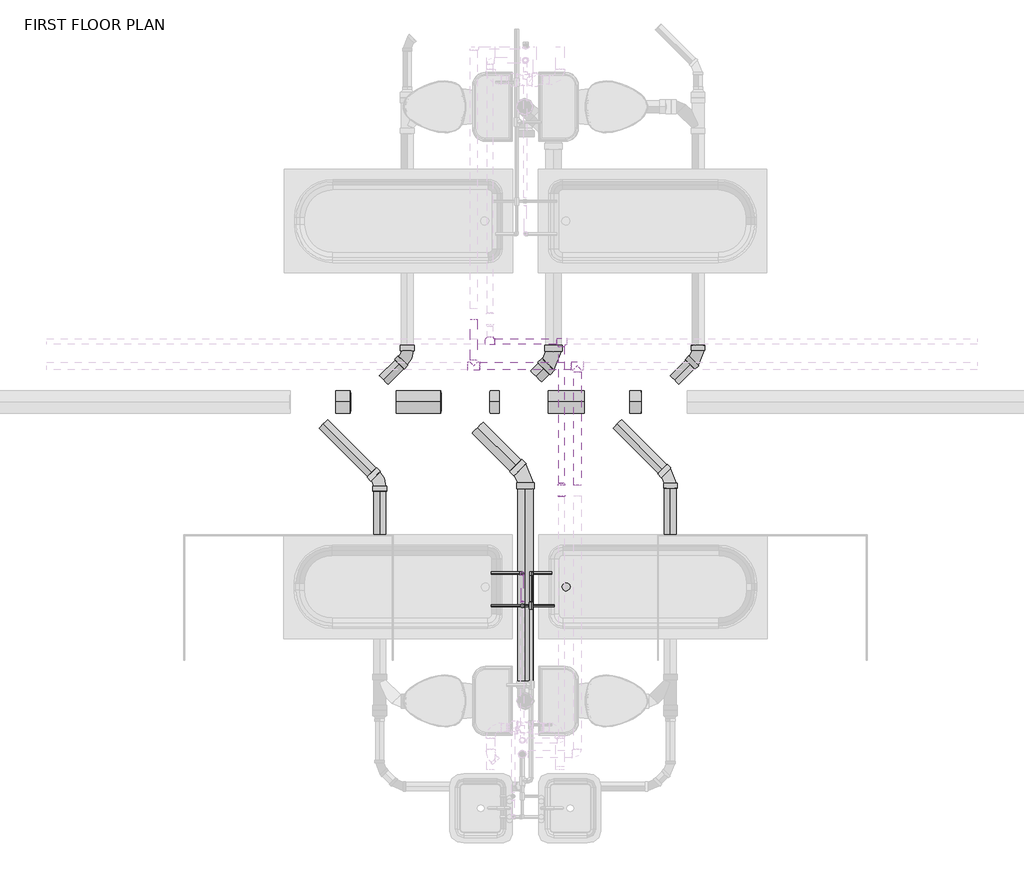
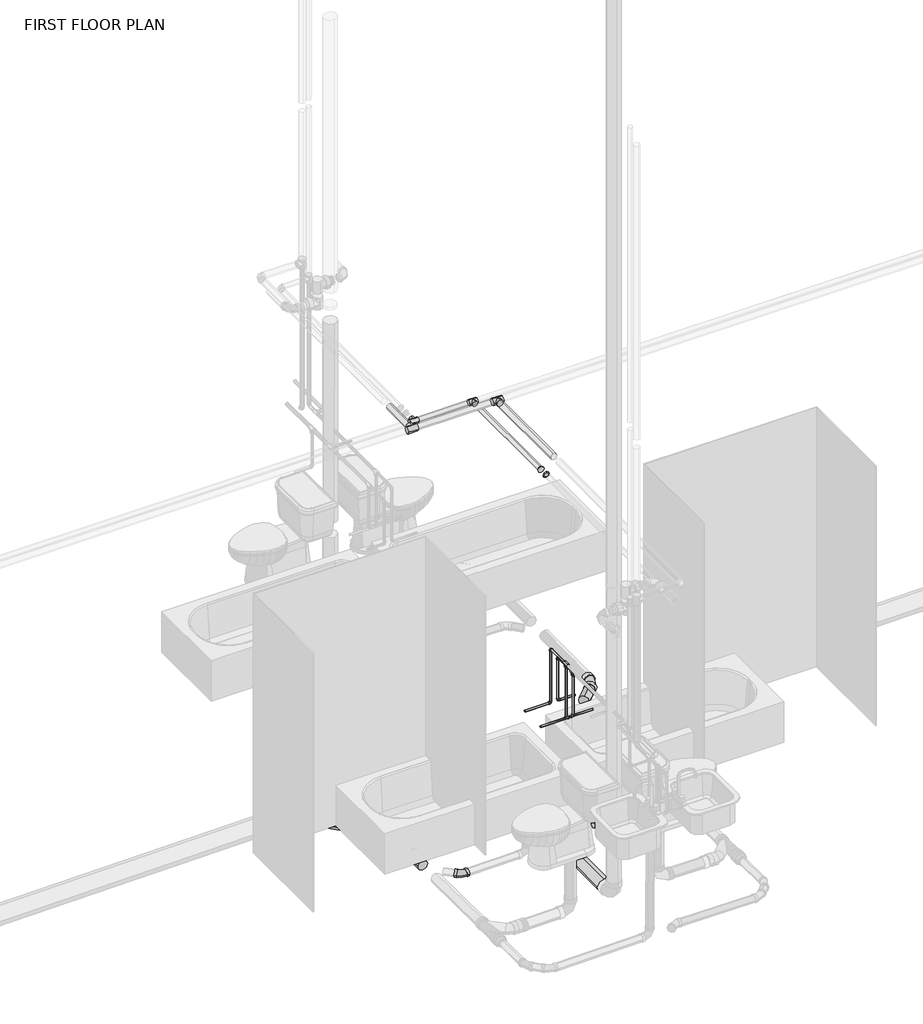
# One storey, part 7 of 29: 32 pipe segments, 27 pipe fittings.
"""IFC4 building model written with IfcOpenShell, lengths in millimetres."""

from ifc_helpers import new_model, si_unit, point, frame, frame_2d, origin, place, context, project, spatial, circle_curve, trimmed, segment, composite_curve, outline, extrude, transform, mapped, element, save
from components import bend_pvc_sch_40_dwv_standard_22595671, bend_pvc_sch_40_dwv_standard_3c7622ae, bend_pvc_sch_40_dwv_standard_52eb40f7, bend_pvc_sch_40_dwv_standard_32dc575b, bend_pvc_sch_40_dwv_standard_8f92de95, bend_pvc_sch_40_dwv_standard_edab7eab, bend_pvc_sch_40_dwv_standard_c6b3a881, bend_pvc_sch_40_dwv_standard_24e66de7, bend_pvc_sch_40_dwv_standard_e1d401b7, pipe_elbow_copper_k_aad62f2d, pipe_tee_copper_k_36278b8a, pipe_tee_copper_k_7127fd44, pipe_tee_copper_k_ee363fbf, pipe_transition_copper_k_c7248b3c, pipe_transition_copper_k_3b8d3413, pipe_transition_copper_k_859ff352

model = new_model("IFC4")

# Units and contexts
model_context = context("Model", 3, world=origin())
ifc_project = project(units=[si_unit("LENGTHUNIT", "METRE", prefix="MILLI")], contexts=[model_context])

# Site, building, storey
site = spatial("IfcSite", under=ifc_project)
building = spatial("IfcBuilding", under=site)
storey = spatial("IfcBuildingStorey", under=building, Name="FIRST FLOOR PLAN", Elevation=0.0)

# Pipe fittings
placement = place(None, origin())
bend_pvc_sch_40_dwv_standard_shape = bend_pvc_sch_40_dwv_standard_22595671(model_context)
element("IfcPipeFitting", 1, ObjectType="Bend - PVC - Sch 40 - DWV : Standard", at=placement, inside=storey, context=model_context, shape_type="MappedRepresentation", body=[
    mapped(bend_pvc_sch_40_dwv_standard_shape, transform((1246.5633345, 4156.8314746, -542.0714298), x_axis=(0.7066279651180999, -0.7075155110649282, 0.009935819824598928), y_axis=(0.7075086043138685, 0.7066884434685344, 0.004797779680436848), z_axis=(-0.010416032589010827, 0.003639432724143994, 0.9999391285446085))),
])
bend_pvc_sch_40_dwv_standard_2_shape = bend_pvc_sch_40_dwv_standard_3c7622ae(model_context)
element("IfcPipeFitting", 2, ObjectType="Bend - PVC - Sch 40 - DWV : Standard", at=placement, inside=storey, context=model_context, shape_type="MappedRepresentation", body=[
    mapped(bend_pvc_sch_40_dwv_standard_2_shape, transform((2415.9584252, 4157.2367423, -508.9174872), x_axis=(0.0, 0.0, -1.0), y_axis=(-1.0, 0.0, 0.0), z_axis=(0.0, 1.0, 0.0))),
])
bend_pvc_sch_40_dwv_standard_3_shape = bend_pvc_sch_40_dwv_standard_52eb40f7(model_context)
element("IfcPipeFitting", 3, ObjectType="Bend - PVC - Sch 40 - DWV : Standard", at=placement, inside=storey, context=model_context, shape_type="MappedRepresentation", body=[
    mapped(bend_pvc_sch_40_dwv_standard_3_shape, transform((2984.7292592, 4157.2367423, -514.8421833), x_axis=(-0.7066279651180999, -0.7075155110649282, 0.009935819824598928), y_axis=(0.7075086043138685, -0.7066884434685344, -0.004797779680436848), z_axis=(0.010416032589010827, 0.003639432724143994, 0.9999391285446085))),
])
bend_pvc_sch_40_dwv_standard_4_shape = bend_pvc_sch_40_dwv_standard_32dc575b(model_context)
element("IfcPipeFitting", 4, ObjectType="Bend - PVC - Sch 40 - DWV : Standard", at=placement, inside=storey, context=model_context, shape_type="MappedRepresentation", body=[
    mapped(bend_pvc_sch_40_dwv_standard_4_shape, transform((3182.3208991, 4963.1015963, -523.8971858), x_axis=(0.0, 0.9999526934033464, -0.009726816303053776), y_axis=(-0.9999990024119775, -1.373919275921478e-05, -0.0014124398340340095), z_axis=(-0.0014125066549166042, 0.009726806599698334, 0.9999516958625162))),
])
bend_pvc_sch_40_dwv_standard_5_shape = bend_pvc_sch_40_dwv_standard_8f92de95(model_context)
element("IfcPipeFitting", 5, ObjectType="Bend - PVC - Sch 40 - DWV : Standard", at=placement, inside=storey, context=model_context, shape_type="MappedRepresentation", body=[
    mapped(bend_pvc_sch_40_dwv_standard_5_shape, transform((1048.8502354, 4939.3176455, -550.9402518), x_axis=(0.0, 0.9999457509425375, -0.01041610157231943), y_axis=(-0.9999648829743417, 8.729216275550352e-05, 0.008380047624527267), z_axis=(0.008380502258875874, 0.010415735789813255, 0.9999106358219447))),
])
bend_pvc_sch_40_dwv_standard_6_shape = bend_pvc_sch_40_dwv_standard_edab7eab(model_context)
element("IfcPipeFitting", 6, ObjectType="Bend - PVC - Sch 40 - DWV : Standard", at=placement, inside=storey, context=model_context, shape_type="MappedRepresentation", body=[
    mapped(bend_pvc_sch_40_dwv_standard_6_shape, transform((2117.9058734, 4977.065205, -535.2792916), x_axis=(0.0, 1.0, 0.0), y_axis=(-0.999945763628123, 0.0, -0.010414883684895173), z_axis=(-0.010414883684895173, 0.0, 0.999945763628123))),
])
bend_pvc_sch_40_dwv_standard_7_shape = bend_pvc_sch_40_dwv_standard_c6b3a881(model_context)
element("IfcPipeFitting", 7, ObjectType="Bend - PVC - Sch 40 - DWV : Standard", at=placement, inside=storey, context=model_context, shape_type="MappedRepresentation", body=[
    mapped(bend_pvc_sch_40_dwv_standard_7_shape, transform((3385.2549441, 5847.9477162, -520.7438125), x_axis=(0.7070684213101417, 0.7070684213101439, 0.01041610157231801), y_axis=(-0.7070949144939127, 0.7071170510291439, -0.0015026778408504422), z_axis=(-0.0084278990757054, -0.00630267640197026, 0.9999446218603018))),
])
bend_pvc_sch_40_dwv_standard_8_shape = bend_pvc_sch_40_dwv_standard_24e66de7(model_context)
element("IfcPipeFitting", 8, ObjectType="Bend - PVC - Sch 40 - DWV : Standard", at=placement, inside=storey, context=model_context, shape_type="MappedRepresentation", body=[
    mapped(bend_pvc_sch_40_dwv_standard_8_shape, transform((1250.8963953, 5847.7796385, -542.6111198), x_axis=(0.7070684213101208, 0.7070684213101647, 0.010416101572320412), y_axis=(-0.7057329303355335, 0.7065102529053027, -0.052766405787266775), z_axis=(-0.04466854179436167, 0.029958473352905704, 0.9985525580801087))),
])
bend_pvc_sch_40_dwv_standard_9_shape = bend_pvc_sch_40_dwv_standard_e1d401b7(model_context)
element("IfcPipeFitting", 9, ObjectType="Bend - PVC - Sch 40 - DWV : Standard", at=placement, inside=storey, context=model_context, shape_type="MappedRepresentation", body=[
    mapped(bend_pvc_sch_40_dwv_standard_9_shape, transform((2324.8590713, 5829.7961579, -530.7454986), x_axis=(0.7070156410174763, 0.7070156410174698, 0.016055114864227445), y_axis=(-0.7071556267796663, 0.7070394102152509, 0.0051178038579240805), z_axis=(-0.007733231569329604, -0.014971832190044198, 0.99985801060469))),
])
pipe_elbow_copper_k_shape = pipe_elbow_copper_k_aad62f2d(model_context)
element("IfcPipeFitting", 10, ObjectType="Pipe Elbow : Copper- K", at=placement, inside=storey, context=model_context, shape_type="MappedRepresentation", body=[
    mapped(pipe_elbow_copper_k_shape, transform((2096.0834875, 4258.2262881, 1219.2), x_axis=(0.0, 1.0, 0.0), y_axis=(0.0, 0.0, -1.0), z_axis=(-1.0, 0.0, 0.0))),
])
element("IfcPipeFitting", 11, ObjectType="Pipe Elbow : Copper- K", at=placement, inside=storey, context=model_context, shape_type="MappedRepresentation", body=[
    mapped(pipe_elbow_copper_k_shape, transform((2096.0834875, 4258.2262881, 711.2), x_axis=(0.0, 0.0, -1.0), y_axis=(-1.0, 0.0, 0.0), z_axis=(0.0, 1.0, 0.0))),
])
element("IfcPipeFitting", 12, ObjectType="Pipe Elbow : Copper- K", at=placement, inside=storey, context=model_context, shape_type="MappedRepresentation", body=[
    mapped(pipe_elbow_copper_k_shape, transform((2096.0834875, 4018.2053571, 711.2), x_axis=(0.0, 0.0, -1.0), y_axis=(1.0, 0.0, 0.0), z_axis=(0.0, -1.0, 0.0))),
])
element("IfcPipeFitting", 13, ObjectType="Pipe Elbow : Copper- K", at=placement, inside=storey, context=model_context, shape_type="MappedRepresentation", body=[
    mapped(pipe_elbow_copper_k_shape, transform((2159.5834875, 4258.2262881, 1117.6), x_axis=(0.0, 1.0, 0.0), y_axis=(0.0, 0.0, -1.0), z_axis=(-1.0, 0.0, 0.0))),
])
element("IfcPipeFitting", 14, ObjectType="Pipe Elbow : Copper- K", at=placement, inside=storey, context=model_context, shape_type="MappedRepresentation", body=[
    mapped(pipe_elbow_copper_k_shape, transform((2159.5834875, 4258.2262881, 711.2), x_axis=(0.0, 0.0, -1.0), y_axis=(1.0, 0.0, 0.0), z_axis=(0.0, -1.0, 0.0))),
])
element("IfcPipeFitting", 15, ObjectType="Pipe Elbow : Copper- K", at=placement, inside=storey, context=model_context, shape_type="MappedRepresentation", body=[
    mapped(pipe_elbow_copper_k_shape, transform((2159.5834875, 4018.2053571, 711.2), x_axis=(0.0, 0.0, -1.0), y_axis=(-1.0, 0.0, 0.0), z_axis=(0.0, 1.0, 0.0))),
])
pipe_tee_copper_k_shape = pipe_tee_copper_k_36278b8a(model_context)
element("IfcPipeFitting", 16, ObjectType="Pipe Tee : Copper- K", at=placement, inside=storey, context=model_context, shape_type="MappedRepresentation", body=[
    mapped(pipe_tee_copper_k_shape, transform((1739.2624243, 5778.2175381, 2490.6882812), x_axis=(1.0, 0.0, 0.0), y_axis=(0.0, -1.0, 0.0), z_axis=(0.0, 0.0, -1.0))),
])
element("IfcPipeFitting", 17, ObjectType="Pipe Tee : Copper- K", at=placement, inside=storey, context=model_context, shape_type="MappedRepresentation", body=[
    mapped(pipe_tee_copper_k_shape, transform((2499.3084875, 5778.2175381, 2490.6882812), x_axis=(1.0, 0.0, 0.0), y_axis=(0.0, 1.0, 0.0), z_axis=(0.0, 0.0, 1.0))),
])
pipe_tee_copper_k_2_shape = pipe_tee_copper_k_7127fd44(model_context)
element("IfcPipeFitting", 18, ObjectType="Pipe Tee : Copper- K", at=placement, inside=storey, context=model_context, shape_type="MappedRepresentation", body=[
    mapped(pipe_tee_copper_k_2_shape, transform((1858.4146104, 5956.0175381, 2413.0), x_axis=(-1.0, 0.0, 0.0), y_axis=(0.0, -1.0, 0.0), z_axis=(0.0, 0.0, 1.0))),
])
element("IfcPipeFitting", 19, ObjectType="Pipe Tee : Copper- K", at=placement, inside=storey, context=model_context, shape_type="MappedRepresentation", body=[
    mapped(pipe_tee_copper_k_2_shape, transform((2383.8898661, 5956.0175381, 2413.0), x_axis=(-1.0, 0.0, 0.0), y_axis=(0.0, 1.0, 0.0), z_axis=(0.0, 0.0, -1.0))),
])
pipe_tee_copper_k_3_shape = pipe_tee_copper_k_ee363fbf(model_context)
element("IfcPipeFitting", 20, ObjectType="Pipe Tee : Copper- K", at=placement, inside=storey, context=model_context, shape_type="MappedRepresentation", body=[
    mapped(pipe_tee_copper_k_3_shape, transform((2096.0834875, 4018.2053571, 1219.2), x_axis=(0.0, -1.0, 0.0), y_axis=(0.0, 0.0, 1.0), z_axis=(-1.0, 0.0, 0.0))),
])
element("IfcPipeFitting", 21, ObjectType="Pipe Tee : Copper- K", at=placement, inside=storey, context=model_context, shape_type="MappedRepresentation", body=[
    mapped(pipe_tee_copper_k_3_shape, transform((2159.5834875, 4018.2053571, 1117.6), x_axis=(0.0, -1.0, 0.0), y_axis=(0.0, 0.0, 1.0), z_axis=(-1.0, 0.0, 0.0))),
])
pipe_transition_copper_k_shape = pipe_transition_copper_k_c7248b3c(model_context)
element("IfcPipeFitting", 22, ObjectType="Pipe Transition : Copper- K", at=placement, inside=storey, context=model_context, shape_type="MappedRepresentation", body=[
    mapped(pipe_transition_copper_k_shape, transform((2383.8898661, 4819.2049131, 2413.0), x_axis=(0.0, 1.0, 0.0), y_axis=(-1.0, 0.0, 0.0), z_axis=(0.0, 0.0, 1.0))),
])
pipe_transition_copper_k_2_shape = pipe_transition_copper_k_3b8d3413(model_context)
element("IfcPipeFitting", 23, ObjectType="Pipe Transition : Copper- K", at=placement, inside=storey, context=model_context, shape_type="MappedRepresentation", body=[
    mapped(pipe_transition_copper_k_2_shape, transform((2383.8898661, 4903.6757881, 2413.0), x_axis=(0.0, 1.0, 0.0), y_axis=(-0.9999997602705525, 0.0, 0.0006924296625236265), z_axis=(0.0006924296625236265, 0.0, 0.9999997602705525))),
])
pipe_transition_copper_k_3_shape = pipe_transition_copper_k_859ff352(model_context)
element("IfcPipeFitting", 24, ObjectType="Pipe Transition : Copper- K", at=placement, inside=storey, context=model_context, shape_type="MappedRepresentation", body=[
    mapped(pipe_transition_copper_k_3_shape, transform((2096.0834875, 4018.2053571, 1192.2125), x_axis=(0.0, 0.0, -1.0), y_axis=(0.0, 1.0, 0.0), z_axis=(1.0, 0.0, 0.0))),
])
element("IfcPipeFitting", 25, ObjectType="Pipe Transition : Copper- K", at=placement, inside=storey, context=model_context, shape_type="MappedRepresentation", body=[
    mapped(pipe_transition_copper_k_3_shape, transform((2159.5834875, 4018.2053571, 1090.6125), x_axis=(0.0, 0.0, -1.0), y_axis=(0.0, -1.0, 0.0), z_axis=(-1.0, 0.0, 0.0))),
])
element("IfcPipeFitting", 26, ObjectType="Pipe Transition : Copper- K", at=placement, inside=storey, context=model_context, shape_type="MappedRepresentation", body=[
    mapped(pipe_transition_copper_k_3_shape, transform((2096.0834875, 4045.1928571, 1219.2), x_axis=(0.0, 1.0, 0.0), y_axis=(-1.0, 0.0, 0.0), z_axis=(0.0, 0.0, 1.0))),
])
element("IfcPipeFitting", 27, ObjectType="Pipe Transition : Copper- K", at=placement, inside=storey, context=model_context, shape_type="MappedRepresentation", body=[
    mapped(pipe_transition_copper_k_3_shape, transform((2159.5834875, 4045.1928571, 1117.6), x_axis=(0.0, 1.0, 0.0), y_axis=(-1.0, 0.0, 0.0), z_axis=(0.0, 0.0, 1.0))),
])

# Pipe segments
element("IfcPipeSegment", 28, ObjectType="Copper", at=placement, inside=storey, context=model_context, shape_type="SweptSolid", body=[
    extrude(outline(composite_curve([segment(trimmed(circle_curve(frame_2d((2490.6882812, 1739.2624243)), 26.9875), [point((2490.6882812, 1712.2749243))], [point((2463.7007812, 1739.2624243))], False, "CARTESIAN"), True, "CONTINUOUS"), segment(trimmed(circle_curve(frame_2d((2490.6882812, 1739.2624243)), 26.9875), [point((2463.7007812, 1739.2624243))], [point((2490.6882812, 1766.2499243))], False, "CARTESIAN"), True, "CONTINUOUS"), segment(trimmed(circle_curve(frame_2d((2490.6882812, 1739.2624243)), 26.9875), [point((2490.6882812, 1766.2499243))], [point((2517.6757812, 1739.2624243))], False, "CARTESIAN"), True, "CONTINUOUS"), segment(trimmed(circle_curve(frame_2d((2490.6882812, 1739.2624243)), 26.9875), [point((2517.6757812, 1739.2624243))], [point((2490.6882812, 1712.2749243))], False, "CARTESIAN"), True, "CONTINUOUS")], self_intersect=False)), frame((0.0, 5821.0800381, 0.0), z_axis=(0.0, 1.0, 0.0), x_axis=(0.0, 0.0, 1.0)), (0.0, 0.0, 1.0), 300.27175),
])
element("IfcPipeSegment", 29, ObjectType="Copper", at=placement, inside=storey, context=model_context, shape_type="SweptSolid", body=[
    extrude(outline(composite_curve([segment(trimmed(circle_curve(frame_2d((2490.6882812, 2499.3084875)), 26.9875), [point((2490.6882812, 2526.2959875))], [point((2517.6757812, 2499.3084875))], False, "CARTESIAN"), True, "CONTINUOUS"), segment(trimmed(circle_curve(frame_2d((2490.6882812, 2499.3084875)), 26.9875), [point((2517.6757812, 2499.3084875))], [point((2490.6882812, 2472.3209875))], False, "CARTESIAN"), True, "CONTINUOUS"), segment(trimmed(circle_curve(frame_2d((2490.6882812, 2499.3084875)), 26.9875), [point((2490.6882812, 2472.3209875))], [point((2463.7007812, 2499.3084875))], False, "CARTESIAN"), True, "CONTINUOUS"), segment(trimmed(circle_curve(frame_2d((2490.6882812, 2499.3084875)), 26.9875), [point((2463.7007812, 2499.3084875))], [point((2490.6882812, 2526.2959875))], False, "CARTESIAN"), True, "CONTINUOUS")], self_intersect=False)), frame((0.0, 4903.6757881, 0.0), z_axis=(0.0, 1.0, 0.0), x_axis=(0.0, 0.0, 1.0)), (0.0, 0.0, 1.0), 831.67925),
])
element("IfcPipeSegment", 30, ObjectType="Copper", at=placement, inside=storey, context=model_context, shape_type="SweptSolid", body=[
    extrude(outline(composite_curve([segment(trimmed(circle_curve(frame_2d((2413.0, 2383.8898661)), 20.6375), [point((2413.0, 2404.5273661))], [point((2433.6375, 2383.8898661))], False, "CARTESIAN"), True, "CONTINUOUS"), segment(trimmed(circle_curve(frame_2d((2413.0, 2383.8898661)), 20.6375), [point((2433.6375, 2383.8898661))], [point((2413.0, 2363.2523661))], False, "CARTESIAN"), True, "CONTINUOUS"), segment(trimmed(circle_curve(frame_2d((2413.0, 2383.8898661)), 20.6375), [point((2413.0, 2363.2523661))], [point((2392.3625, 2383.8898661))], False, "CARTESIAN"), True, "CONTINUOUS"), segment(trimmed(circle_curve(frame_2d((2413.0, 2383.8898661)), 20.6375), [point((2392.3625, 2383.8898661))], [point((2413.0, 2404.5273661))], False, "CARTESIAN"), True, "CONTINUOUS")], self_intersect=False)), frame((0.0, 4917.1695381, 0.0), z_axis=(0.0, 1.0, 0.0), x_axis=(0.0, 0.0, 1.0)), (0.0, 0.0, 1.0), 1002.3355),
])
element("IfcPipeSegment", 31, ObjectType="Copper", at=placement, inside=storey, context=model_context, shape_type="SweptSolid", body=[
    extrude(outline(composite_curve([segment(trimmed(circle_curve(frame_2d((5778.2175381, 2490.6882812)), 26.9875), [point((5805.2050381, 2490.6882812))], [point((5778.2175381, 2463.7007812))], False, "CARTESIAN"), True, "CONTINUOUS"), segment(trimmed(circle_curve(frame_2d((5778.2175381, 2490.6882812)), 26.9875), [point((5778.2175381, 2463.7007812))], [point((5751.2300381, 2490.6882812))], False, "CARTESIAN"), True, "CONTINUOUS"), segment(trimmed(circle_curve(frame_2d((5778.2175381, 2490.6882812)), 26.9875), [point((5751.2300381, 2490.6882812))], [point((5778.2175381, 2517.6757812))], False, "CARTESIAN"), True, "CONTINUOUS"), segment(trimmed(circle_curve(frame_2d((5778.2175381, 2490.6882812)), 26.9875), [point((5778.2175381, 2517.6757812))], [point((5805.2050381, 2490.6882812))], False, "CARTESIAN"), True, "CONTINUOUS")], self_intersect=False)), frame((1782.1249243, 0.0, 0.0), z_axis=(1.0, 0.0, 0.0), x_axis=(0.0, 1.0, 0.0)), (0.0, 0.0, 1.0), 674.3210632),
])
element("IfcPipeSegment", 32, ObjectType="Copper", at=placement, inside=storey, context=model_context, shape_type="SweptSolid", body=[
    extrude(outline(composite_curve([segment(trimmed(circle_curve(frame_2d((5956.0175381, 2413.0)), 20.6375), [point((5935.3800381, 2413.0))], [point((5956.0175381, 2433.6375))], False, "CARTESIAN"), True, "CONTINUOUS"), segment(trimmed(circle_curve(frame_2d((5956.0175381, 2413.0)), 20.6375), [point((5956.0175381, 2433.6375))], [point((5976.6550381, 2413.0))], False, "CARTESIAN"), True, "CONTINUOUS"), segment(trimmed(circle_curve(frame_2d((5956.0175381, 2413.0)), 20.6375), [point((5976.6550381, 2413.0))], [point((5956.0175381, 2392.3625))], False, "CARTESIAN"), True, "CONTINUOUS"), segment(trimmed(circle_curve(frame_2d((5956.0175381, 2413.0)), 20.6375), [point((5956.0175381, 2392.3625))], [point((5935.3800381, 2413.0))], False, "CARTESIAN"), True, "CONTINUOUS")], self_intersect=False)), frame((1894.9271104, 0.0, 0.0), z_axis=(1.0, 0.0, 0.0), x_axis=(0.0, 1.0, 0.0)), (0.0, 0.0, 1.0), 452.4502557),
])
element("IfcPipeSegment", 33, ObjectType="Copper", at=placement, inside=storey, context=model_context, shape_type="SweptSolid", body=[
    extrude(outline(composite_curve([segment(trimmed(circle_curve(frame_2d((1219.2, 2096.0834875)), 7.9375), [point((1219.2, 2104.0209875))], [point((1227.1375, 2096.0834875))], False, "CARTESIAN"), True, "CONTINUOUS"), segment(trimmed(circle_curve(frame_2d((1219.2, 2096.0834875)), 7.9375), [point((1227.1375, 2096.0834875))], [point((1219.2, 2088.1459875))], False, "CARTESIAN"), True, "CONTINUOUS"), segment(trimmed(circle_curve(frame_2d((1219.2, 2096.0834875)), 7.9375), [point((1219.2, 2088.1459875))], [point((1211.2625, 2096.0834875))], False, "CARTESIAN"), True, "CONTINUOUS"), segment(trimmed(circle_curve(frame_2d((1219.2, 2096.0834875)), 7.9375), [point((1211.2625, 2096.0834875))], [point((1219.2, 2104.0209875))], False, "CARTESIAN"), True, "CONTINUOUS")], self_intersect=False)), frame((0.0, 4050.7491071, 0.0), z_axis=(0.0, 1.0, 0.0), x_axis=(0.0, 0.0, 1.0)), (0.0, 0.0, 1.0), 190.0146809),
])
element("IfcPipeSegment", 34, ObjectType="Copper", at=placement, inside=storey, context=model_context, shape_type="SweptSolid", body=[
    extrude(outline(composite_curve([segment(trimmed(circle_curve(frame_2d((4258.2262881, 711.2)), 7.9375), [point((4266.1637881, 711.2))], [point((4258.2262881, 703.2625))], False, "CARTESIAN"), True, "CONTINUOUS"), segment(trimmed(circle_curve(frame_2d((4258.2262881, 711.2)), 7.9375), [point((4258.2262881, 703.2625))], [point((4250.2887881, 711.2))], False, "CARTESIAN"), True, "CONTINUOUS"), segment(trimmed(circle_curve(frame_2d((4258.2262881, 711.2)), 7.9375), [point((4250.2887881, 711.2))], [point((4258.2262881, 719.1375))], False, "CARTESIAN"), True, "CONTINUOUS"), segment(trimmed(circle_curve(frame_2d((4258.2262881, 711.2)), 7.9375), [point((4258.2262881, 719.1375))], [point((4266.1637881, 711.2))], False, "CARTESIAN"), True, "CONTINUOUS")], self_intersect=False)), frame((1867.4834875, 0.0, 0.0), z_axis=(1.0, 0.0, 0.0), x_axis=(0.0, 1.0, 0.0)), (0.0, 0.0, 1.0), 211.1375),
])
element("IfcPipeSegment", 35, ObjectType="Copper", at=placement, inside=storey, context=model_context, shape_type="SweptSolid", body=[
    extrude(outline(composite_curve([segment(trimmed(circle_curve(frame_2d((2096.0834875, 4258.2262881)), 7.9375), [point((2104.0209875, 4258.2262881))], [point((2096.0834875, 4250.2887881))], False, "CARTESIAN"), True, "CONTINUOUS"), segment(trimmed(circle_curve(frame_2d((2096.0834875, 4258.2262881)), 7.9375), [point((2096.0834875, 4250.2887881))], [point((2088.1459875, 4258.2262881))], False, "CARTESIAN"), True, "CONTINUOUS"), segment(trimmed(circle_curve(frame_2d((2096.0834875, 4258.2262881)), 7.9375), [point((2088.1459875, 4258.2262881))], [point((2096.0834875, 4266.1637881))], False, "CARTESIAN"), True, "CONTINUOUS"), segment(trimmed(circle_curve(frame_2d((2096.0834875, 4258.2262881)), 7.9375), [point((2096.0834875, 4266.1637881))], [point((2104.0209875, 4258.2262881))], False, "CARTESIAN"), True, "CONTINUOUS")], self_intersect=False)), frame((0.0, 0.0, 728.6625), z_axis=(0.0, 0.0, 1.0), x_axis=(1.0, 0.0, 0.0)), (0.0, 0.0, 1.0), 473.075),
])
element("IfcPipeSegment", 36, ObjectType="Copper", at=placement, inside=storey, context=model_context, shape_type="SweptSolid", body=[
    extrude(outline(composite_curve([segment(trimmed(circle_curve(frame_2d((4018.2053571, 711.2)), 7.9375), [point((4010.2678571, 711.2))], [point((4018.2053571, 719.1375))], False, "CARTESIAN"), True, "CONTINUOUS"), segment(trimmed(circle_curve(frame_2d((4018.2053571, 711.2)), 7.9375), [point((4018.2053571, 719.1375))], [point((4026.1428571, 711.2))], False, "CARTESIAN"), True, "CONTINUOUS"), segment(trimmed(circle_curve(frame_2d((4018.2053571, 711.2)), 7.9375), [point((4026.1428571, 711.2))], [point((4018.2053571, 703.2625))], False, "CARTESIAN"), True, "CONTINUOUS"), segment(trimmed(circle_curve(frame_2d((4018.2053571, 711.2)), 7.9375), [point((4018.2053571, 703.2625))], [point((4010.2678571, 711.2))], False, "CARTESIAN"), True, "CONTINUOUS")], self_intersect=False)), frame((2113.5459875, 0.0, 0.0), z_axis=(1.0, 0.0, 0.0), x_axis=(0.0, 1.0, 0.0)), (0.0, 0.0, 1.0), 217.4875),
])
element("IfcPipeSegment", 37, ObjectType="Copper", at=placement, inside=storey, context=model_context, shape_type="SweptSolid", body=[
    extrude(outline(composite_curve([segment(trimmed(circle_curve(frame_2d((2096.0834875, 4018.2053571)), 7.9375), [point((2104.0209875, 4018.2053571))], [point((2096.0834875, 4010.2678571))], False, "CARTESIAN"), True, "CONTINUOUS"), segment(trimmed(circle_curve(frame_2d((2096.0834875, 4018.2053571)), 7.9375), [point((2096.0834875, 4010.2678571))], [point((2088.1459875, 4018.2053571))], False, "CARTESIAN"), True, "CONTINUOUS"), segment(trimmed(circle_curve(frame_2d((2096.0834875, 4018.2053571)), 7.9375), [point((2088.1459875, 4018.2053571))], [point((2096.0834875, 4026.1428571))], False, "CARTESIAN"), True, "CONTINUOUS"), segment(trimmed(circle_curve(frame_2d((2096.0834875, 4018.2053571)), 7.9375), [point((2096.0834875, 4026.1428571))], [point((2104.0209875, 4018.2053571))], False, "CARTESIAN"), True, "CONTINUOUS")], self_intersect=False)), frame((0.0, 0.0, 728.6625), z_axis=(0.0, 0.0, 1.0), x_axis=(1.0, 0.0, 0.0)), (0.0, 0.0, 1.0), 457.99375),
])
element("IfcPipeSegment", 38, ObjectType="Copper", at=placement, inside=storey, context=model_context, shape_type="SweptSolid", body=[
    extrude(outline(composite_curve([segment(trimmed(circle_curve(frame_2d((1117.6, 2159.5834875)), 7.9375), [point((1117.6, 2167.5209875))], [point((1125.5375, 2159.5834875))], False, "CARTESIAN"), True, "CONTINUOUS"), segment(trimmed(circle_curve(frame_2d((1117.6, 2159.5834875)), 7.9375), [point((1125.5375, 2159.5834875))], [point((1117.6, 2151.6459875))], False, "CARTESIAN"), True, "CONTINUOUS"), segment(trimmed(circle_curve(frame_2d((1117.6, 2159.5834875)), 7.9375), [point((1117.6, 2151.6459875))], [point((1109.6625, 2159.5834875))], False, "CARTESIAN"), True, "CONTINUOUS"), segment(trimmed(circle_curve(frame_2d((1117.6, 2159.5834875)), 7.9375), [point((1109.6625, 2159.5834875))], [point((1117.6, 2167.5209875))], False, "CARTESIAN"), True, "CONTINUOUS")], self_intersect=False)), frame((0.0, 4050.7491071, 0.0), z_axis=(0.0, 1.0, 0.0), x_axis=(0.0, 0.0, 1.0)), (0.0, 0.0, 1.0), 190.0146809),
])
element("IfcPipeSegment", 39, ObjectType="Copper", at=placement, inside=storey, context=model_context, shape_type="SweptSolid", body=[
    extrude(outline(composite_curve([segment(trimmed(circle_curve(frame_2d((4258.2262881, 711.2)), 7.9375), [point((4250.2887881, 711.2))], [point((4258.2262881, 719.1375))], False, "CARTESIAN"), True, "CONTINUOUS"), segment(trimmed(circle_curve(frame_2d((4258.2262881, 711.2)), 7.9375), [point((4258.2262881, 719.1375))], [point((4266.1637881, 711.2))], False, "CARTESIAN"), True, "CONTINUOUS"), segment(trimmed(circle_curve(frame_2d((4258.2262881, 711.2)), 7.9375), [point((4266.1637881, 711.2))], [point((4258.2262881, 703.2625))], False, "CARTESIAN"), True, "CONTINUOUS"), segment(trimmed(circle_curve(frame_2d((4258.2262881, 711.2)), 7.9375), [point((4258.2262881, 703.2625))], [point((4250.2887881, 711.2))], False, "CARTESIAN"), True, "CONTINUOUS")], self_intersect=False)), frame((2177.0459875, 0.0, 0.0), z_axis=(1.0, 0.0, 0.0), x_axis=(0.0, 1.0, 0.0)), (0.0, 0.0, 1.0), 134.9375),
])
element("IfcPipeSegment", 40, ObjectType="Copper", at=placement, inside=storey, context=model_context, shape_type="SweptSolid", body=[
    extrude(outline(composite_curve([segment(trimmed(circle_curve(frame_2d((2159.5834875, 4258.2262881)), 7.9375), [point((2167.5209875, 4258.2262881))], [point((2159.5834875, 4250.2887881))], False, "CARTESIAN"), True, "CONTINUOUS"), segment(trimmed(circle_curve(frame_2d((2159.5834875, 4258.2262881)), 7.9375), [point((2159.5834875, 4250.2887881))], [point((2151.6459875, 4258.2262881))], False, "CARTESIAN"), True, "CONTINUOUS"), segment(trimmed(circle_curve(frame_2d((2159.5834875, 4258.2262881)), 7.9375), [point((2151.6459875, 4258.2262881))], [point((2159.5834875, 4266.1637881))], False, "CARTESIAN"), True, "CONTINUOUS"), segment(trimmed(circle_curve(frame_2d((2159.5834875, 4258.2262881)), 7.9375), [point((2159.5834875, 4266.1637881))], [point((2167.5209875, 4258.2262881))], False, "CARTESIAN"), True, "CONTINUOUS")], self_intersect=False)), frame((0.0, 0.0, 728.6625), z_axis=(0.0, 0.0, 1.0), x_axis=(1.0, 0.0, 0.0)), (0.0, 0.0, 1.0), 371.475),
])
element("IfcPipeSegment", 41, ObjectType="Copper", at=placement, inside=storey, context=model_context, shape_type="SweptSolid", body=[
    extrude(outline(composite_curve([segment(trimmed(circle_curve(frame_2d((4018.2053571, 711.2)), 7.9375), [point((4026.1428571, 711.2))], [point((4018.2053571, 703.2625))], False, "CARTESIAN"), True, "CONTINUOUS"), segment(trimmed(circle_curve(frame_2d((4018.2053571, 711.2)), 7.9375), [point((4018.2053571, 703.2625))], [point((4010.2678571, 711.2))], False, "CARTESIAN"), True, "CONTINUOUS"), segment(trimmed(circle_curve(frame_2d((4018.2053571, 711.2)), 7.9375), [point((4010.2678571, 711.2))], [point((4018.2053571, 719.1375))], False, "CARTESIAN"), True, "CONTINUOUS"), segment(trimmed(circle_curve(frame_2d((4018.2053571, 711.2)), 7.9375), [point((4018.2053571, 719.1375))], [point((4026.1428571, 711.2))], False, "CARTESIAN"), True, "CONTINUOUS")], self_intersect=False)), frame((1867.4834875, 0.0, 0.0), z_axis=(1.0, 0.0, 0.0), x_axis=(0.0, 1.0, 0.0)), (0.0, 0.0, 1.0), 274.6375),
])
element("IfcPipeSegment", 42, ObjectType="Copper", at=placement, inside=storey, context=model_context, shape_type="SweptSolid", body=[
    extrude(outline(composite_curve([segment(trimmed(circle_curve(frame_2d((2159.5834875, 4018.2053571)), 7.9375), [point((2167.5209875, 4018.2053571))], [point((2159.5834875, 4010.2678571))], False, "CARTESIAN"), True, "CONTINUOUS"), segment(trimmed(circle_curve(frame_2d((2159.5834875, 4018.2053571)), 7.9375), [point((2159.5834875, 4010.2678571))], [point((2151.6459875, 4018.2053571))], False, "CARTESIAN"), True, "CONTINUOUS"), segment(trimmed(circle_curve(frame_2d((2159.5834875, 4018.2053571)), 7.9375), [point((2151.6459875, 4018.2053571))], [point((2159.5834875, 4026.1428571))], False, "CARTESIAN"), True, "CONTINUOUS"), segment(trimmed(circle_curve(frame_2d((2159.5834875, 4018.2053571)), 7.9375), [point((2159.5834875, 4026.1428571))], [point((2167.5209875, 4018.2053571))], False, "CARTESIAN"), True, "CONTINUOUS")], self_intersect=False)), frame((0.0, 0.0, 728.6625), z_axis=(0.0, 0.0, 1.0), x_axis=(1.0, 0.0, 0.0)), (0.0, 0.0, 1.0), 356.39375),
])
element("IfcPipeSegment", 43, ObjectType="PVC - SAN/STORM", at=placement, inside=storey, context=model_context, shape_type="SweptSolid", body=[
    extrude(outline(composite_curve([segment(trimmed(circle_curve(frame_2d((0.0, -30.1625)), 30.1625), [point((-30.1625, -30.1625092))], [point((-9.2e-06, 0.0))], False, "CARTESIAN"), True, "CONTINUOUS"), segment(trimmed(circle_curve(frame_2d((0.0, -30.1625)), 30.1625), [point((-9.2e-06, 0.0))], [point((30.1625, -30.1624908))], False, "CARTESIAN"), True, "CONTINUOUS"), segment(trimmed(circle_curve(frame_2d((0.0, -30.1625)), 30.1625), [point((30.1625, -30.1624908))], [point((9.2e-06, -60.3249999))], False, "CARTESIAN"), True, "CONTINUOUS"), segment(trimmed(circle_curve(frame_2d((0.0, -30.1625)), 30.1625), [point((9.2e-06, -60.3249999))], [point((-30.1625, -30.1625092))], False, "CARTESIAN"), True, "CONTINUOUS")], self_intersect=False)), frame((2415.9584252, 4127.0742515, -431.1408646), z_axis=(-0.00038879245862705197, -0.0007816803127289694, 0.9999996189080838), x_axis=(-0.9999999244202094, 3.039114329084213e-07, -0.0003887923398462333)), (0.0, 0.0, 1.0), 483.9114543),
])
element("IfcPipeSegment", 44, ObjectType="PVC - SAN/STORM", at=placement, inside=storey, context=model_context, shape_type="SweptSolid", body=[
    extrude(outline(composite_curve([segment(trimmed(circle_curve(frame_2d((0.0, -30.1625)), 30.1625), [point((0.0, -60.325))], [point((-30.1625, -30.1625))], False, "CARTESIAN"), True, "CONTINUOUS"), segment(trimmed(circle_curve(frame_2d((0.0, -30.1625)), 30.1625), [point((-30.1625, -30.1625))], [point((0.0, 0.0))], False, "CARTESIAN"), True, "CONTINUOUS"), segment(trimmed(circle_curve(frame_2d((0.0, -30.1625)), 30.1625), [point((0.0, 0.0))], [point((30.1625, -30.1625))], False, "CARTESIAN"), True, "CONTINUOUS"), segment(trimmed(circle_curve(frame_2d((0.0, -30.1625)), 30.1625), [point((30.1625, -30.1625))], [point((0.0, -60.325))], False, "CARTESIAN"), True, "CONTINUOUS")], self_intersect=False)), frame((2932.3319019, 4187.3992423, -514.2963775), z_axis=(-0.9999457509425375, 0.0, 0.01041610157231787), x_axis=(0.01041610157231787, 0.0, 0.9999457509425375)), (0.0, 0.0, 1.0), 438.601291),
])
element("IfcPipeSegment", 45, ObjectType="PVC - SAN/STORM", at=placement, inside=storey, context=model_context, shape_type="SweptSolid", body=[
    extrude(outline(composite_curve([segment(trimmed(circle_curve(frame_2d((0.0, -30.1625)), 30.1625), [point((30.161015, -30.4617985))], [point((-0.2992985, -60.3235151))], False, "CARTESIAN"), True, "CONTINUOUS"), segment(trimmed(circle_curve(frame_2d((0.0, -30.1625)), 30.1625), [point((-0.2992985, -60.3235151))], [point((-30.161015, -29.8632015))], False, "CARTESIAN"), True, "CONTINUOUS"), segment(trimmed(circle_curve(frame_2d((0.0, -30.1625)), 30.1625), [point((-30.161015, -29.8632015))], [point((0.2992985, -0.001485))], False, "CARTESIAN"), True, "CONTINUOUS"), segment(trimmed(circle_curve(frame_2d((0.0, -30.1625)), 30.1625), [point((0.2992985, -0.001485))], [point((30.161015, -30.4617985))], False, "CARTESIAN"), True, "CONTINUOUS")], self_intersect=False)), frame((3085.8485162, 4258.9065459, -486.1044841), z_axis=(-0.7066279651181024, -0.7075155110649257, 0.009935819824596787), x_axis=(0.7075852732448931, -0.706558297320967, 0.009922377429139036)), (0.0, 0.0, 1.0), 90.7009253),
])
element("IfcPipeSegment", 46, ObjectType="PVC - SAN/STORM", at=placement, inside=storey, context=model_context, shape_type="SweptSolid", body=[
    extrude(outline(composite_curve([segment(trimmed(circle_curve(frame_2d((0.0, -44.4500001)), 44.45), [point((44.45, -44.4500001))], [point((0.0, -88.9))], False, "CARTESIAN"), True, "CONTINUOUS"), segment(trimmed(circle_curve(frame_2d((0.0, -44.4500001)), 44.45), [point((0.0, -88.9))], [point((-44.45, -44.4500001))], False, "CARTESIAN"), True, "CONTINUOUS"), segment(trimmed(circle_curve(frame_2d((0.0, -44.4500001)), 44.45), [point((-44.45, -44.4500001))], [point((0.0, 0.0))], False, "CARTESIAN"), True, "CONTINUOUS"), segment(trimmed(circle_curve(frame_2d((0.0, -44.4500001)), 44.45), [point((0.0, 0.0))], [point((44.45, -44.4500001))], False, "CARTESIAN"), True, "CONTINUOUS")], self_intersect=False)), frame((3182.3208991, 4881.0184972, -478.6466484), z_axis=(0.0, -0.9999457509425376, 0.0104161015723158), x_axis=(1.0, 0.0, 0.0)), (0.0, 0.0, 1.0), 465.1824466),
])
element("IfcPipeSegment", 47, ObjectType="PVC - SAN/STORM", at=placement, inside=storey, context=model_context, shape_type="SweptSolid", body=[
    extrude(outline(composite_curve([segment(trimmed(circle_curve(frame_2d((0.0, -44.45)), 44.45), [point((44.448622, -44.100007))], [point((0.349993, -88.8986221))], False, "CARTESIAN"), True, "CONTINUOUS"), segment(trimmed(circle_curve(frame_2d((0.0, -44.45)), 44.45), [point((0.349993, -88.8986221))], [point((-44.4486221, -44.799993))], False, "CARTESIAN"), True, "CONTINUOUS"), segment(trimmed(circle_curve(frame_2d((0.0, -44.45)), 44.45), [point((-44.4486221, -44.799993))], [point((-0.3499931, -0.001378))], False, "CARTESIAN"), True, "CONTINUOUS"), segment(trimmed(circle_curve(frame_2d((0.0, -44.45)), 44.45), [point((-0.3499931, -0.001378))], [point((44.448622, -44.100007))], False, "CARTESIAN"), True, "CONTINUOUS")], self_intersect=False)), frame((2793.2978062, 5352.833936, -483.7856856), z_axis=(0.7068902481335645, -0.7072793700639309, 0.007878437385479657), x_axis=(0.7073232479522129, 0.7068463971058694, -0.007873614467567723)), (0.0, 0.0, 1.0), 467.7802584),
])
element("IfcPipeSegment", 48, ObjectType="PVC - SAN/STORM", at=placement, inside=storey, context=model_context, shape_type="SweptSolid", body=[
    extrude(outline(composite_curve([segment(trimmed(circle_curve(frame_2d((0.0, -44.45)), 44.45), [point((44.45, -44.45))], [point((0.0, -88.8999999))], False, "CARTESIAN"), True, "CONTINUOUS"), segment(trimmed(circle_curve(frame_2d((0.0, -44.45)), 44.45), [point((0.0, -88.8999999))], [point((-44.45, -44.45))], False, "CARTESIAN"), True, "CONTINUOUS"), segment(trimmed(circle_curve(frame_2d((0.0, -44.45)), 44.45), [point((-44.45, -44.45))], [point((0.0, 0.0))], False, "CARTESIAN"), True, "CONTINUOUS"), segment(trimmed(circle_curve(frame_2d((0.0, -44.45)), 44.45), [point((0.0, 0.0))], [point((44.45, -44.45))], False, "CARTESIAN"), True, "CONTINUOUS")], self_intersect=False)), frame((1048.8502354, 4858.809834, -505.6492173), z_axis=(0.0, -0.9999457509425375, 0.01041610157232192), x_axis=(1.0, 0.0, 0.0)), (0.0, 0.0, 1.0), 443.2562497),
])
element("IfcPipeSegment", 49, ObjectType="PVC - SAN/STORM", at=placement, inside=storey, context=model_context, shape_type="SweptSolid", body=[
    extrude(outline(composite_curve([segment(trimmed(circle_curve(frame_2d((0.0, -44.4500001)), 44.45), [point((44.449954, -44.3860317))], [point((0.0639684, -88.8999541))], False, "CARTESIAN"), True, "CONTINUOUS"), segment(trimmed(circle_curve(frame_2d((0.0, -44.4500001)), 44.45), [point((0.0639684, -88.8999541))], [point((-44.449954, -44.5139684))], False, "CARTESIAN"), True, "CONTINUOUS"), segment(trimmed(circle_curve(frame_2d((0.0, -44.4500001)), 44.45), [point((-44.449954, -44.5139684))], [point((-0.0639684, -4.61e-05))], False, "CARTESIAN"), True, "CONTINUOUS"), segment(trimmed(circle_curve(frame_2d((0.0, -44.4500001)), 44.45), [point((-0.0639684, -4.61e-05))], [point((44.449954, -44.3860317))], False, "CARTESIAN"), True, "CONTINUOUS")], self_intersect=False)), frame((635.7756767, 5352.4711695, -507.3310024), z_axis=(0.7071158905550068, -0.7070962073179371, 0.001439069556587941), x_axis=(0.7070976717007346, 0.7071144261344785, -0.0014391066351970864)), (0.0, 0.0, 1.0), 503.1929175),
])
element("IfcPipeSegment", 50, ObjectType="PVC - SAN/STORM", at=placement, inside=storey, context=model_context, shape_type="SweptSolid", body=[
    extrude(outline(composite_curve([segment(trimmed(circle_curve(frame_2d((-535.2792916, 2117.9058734)), 57.15), [point((-535.2792916, 2175.0558734))], [point((-478.1292916, 2117.9058734))], False, "CARTESIAN"), True, "CONTINUOUS"), segment(trimmed(circle_curve(frame_2d((-535.2792916, 2117.9058734)), 57.15), [point((-478.1292916, 2117.9058734))], [point((-535.2792916, 2060.7558734))], False, "CARTESIAN"), True, "CONTINUOUS"), segment(trimmed(circle_curve(frame_2d((-535.2792916, 2117.9058734)), 57.15), [point((-535.2792916, 2060.7558734))], [point((-592.4292916, 2117.9058734))], False, "CARTESIAN"), True, "CONTINUOUS"), segment(trimmed(circle_curve(frame_2d((-535.2792916, 2117.9058734)), 57.15), [point((-592.4292916, 2117.9058734))], [point((-535.2792916, 2175.0558734))], False, "CARTESIAN"), True, "CONTINUOUS")], self_intersect=False)), frame((0.0, 3463.1593323, 0.0), z_axis=(0.0, 1.0, 0.0), x_axis=(0.0, 0.0, 1.0)), (0.0, 0.0, 1.0), 1413.8806727),
])
element("IfcPipeSegment", 51, ObjectType="PVC - SAN/STORM", at=placement, inside=storey, context=model_context, shape_type="SweptSolid", body=[
    extrude(outline(composite_curve([segment(trimmed(circle_curve(frame_2d((1e-07, -57.1500001)), 57.15), [point((57.1484518, -56.7293418))], [point((0.4206583, -114.2984518))], False, "CARTESIAN"), True, "CONTINUOUS"), segment(trimmed(circle_curve(frame_2d((1e-07, -57.1500001)), 57.15), [point((0.4206583, -114.2984518))], [point((-57.1484518, -57.5706584))], False, "CARTESIAN"), True, "CONTINUOUS"), segment(trimmed(circle_curve(frame_2d((1e-07, -57.1500001)), 57.15), [point((-57.1484518, -57.5706584))], [point((-0.4206583, -0.0015482))], False, "CARTESIAN"), True, "CONTINUOUS"), segment(trimmed(circle_curve(frame_2d((1e-07, -57.1500001)), 57.15), [point((-0.4206583, -0.0015482))], [point((57.1484518, -56.7293418))], False, "CARTESIAN"), True, "CONTINUOUS")], self_intersect=False)), frame((1768.7883866, 5326.8989419, -481.7686043), z_axis=(0.7069648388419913, -0.7072103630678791, 0.0073633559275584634), x_axis=(0.7072486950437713, 0.7069265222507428, -0.007360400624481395)), (0.0, 0.0, 1.0), 393.8006137),
])
element("IfcPipeSegment", 52, ObjectType="PVC - SAN/STORM", at=placement, inside=storey, context=model_context, shape_type="SweptSolid", body=[
    extrude(outline(composite_curve([segment(trimmed(circle_curve(frame_2d((0.0, -84.1375)), 84.1375), [point((0.0, 0.0))], [point((84.1375, -84.1375))], False, "CARTESIAN"), True, "CONTINUOUS"), segment(trimmed(circle_curve(frame_2d((0.0, -84.1375)), 84.1375), [point((84.1375, -84.1375))], [point((0.0, -168.275))], False, "CARTESIAN"), True, "CONTINUOUS"), segment(trimmed(circle_curve(frame_2d((0.0, -84.1375)), 84.1375), [point((0.0, -168.275))], [point((-84.1375, -84.1375))], False, "CARTESIAN"), True, "CONTINUOUS"), segment(trimmed(circle_curve(frame_2d((0.0, -84.1375)), 84.1375), [point((-84.1375, -84.1375))], [point((0.0, 0.0))], False, "CARTESIAN"), True, "CONTINUOUS")], self_intersect=False)), frame((728.115206, 5598.1603988, -549.4642946), z_axis=(0.9999475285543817, 0.0, 0.0102440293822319), x_axis=(0.0102440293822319, 0.0, -0.9999475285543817)), (0.0, 0.0, 1.0), 106.4843685),
])
element("IfcPipeSegment", 53, ObjectType="PVC - SAN/STORM", at=placement, inside=storey, context=model_context, shape_type="SweptSolid", body=[
    extrude(outline(composite_curve([segment(trimmed(circle_curve(frame_2d((0.0, -84.1375)), 84.1375), [point((0.0, 0.0))], [point((84.1374999, -84.1375))], False, "CARTESIAN"), True, "CONTINUOUS"), segment(trimmed(circle_curve(frame_2d((0.0, -84.1375)), 84.1375), [point((84.1374999, -84.1375))], [point((0.0, -168.275))], False, "CARTESIAN"), True, "CONTINUOUS"), segment(trimmed(circle_curve(frame_2d((0.0, -84.1375)), 84.1375), [point((0.0, -168.275))], [point((-84.1375, -84.1375))], False, "CARTESIAN"), True, "CONTINUOUS"), segment(trimmed(circle_curve(frame_2d((0.0, -84.1375)), 84.1375), [point((-84.1375, -84.1375))], [point((0.0, 0.0))], False, "CARTESIAN"), True, "CONTINUOUS")], self_intersect=False)), frame((1858.6445292, 5598.1603988, -537.957742), z_axis=(0.9999476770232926, 0.0, 0.01022952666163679), x_axis=(0.01022952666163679, 0.0, -0.9999476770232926)), (0.0, 0.0, 1.0), 67.8991549),
])
element("IfcPipeSegment", 54, ObjectType="PVC - SAN/STORM", at=placement, inside=storey, context=model_context, shape_type="SweptSolid", body=[
    extrude(outline(composite_curve([segment(trimmed(circle_curve(frame_2d((0.0, -44.45)), 44.45), [point((-44.4475889, -43.9870294))], [point((0.4629706, -0.0024111))], False, "CARTESIAN"), True, "CONTINUOUS"), segment(trimmed(circle_curve(frame_2d((0.0, -44.45)), 44.45), [point((0.4629706, -0.0024111))], [point((44.4475889, -44.9129706))], False, "CARTESIAN"), True, "CONTINUOUS"), segment(trimmed(circle_curve(frame_2d((0.0, -44.45)), 44.45), [point((44.4475889, -44.9129706))], [point((-0.4629706, -88.8975889))], False, "CARTESIAN"), True, "CONTINUOUS"), segment(trimmed(circle_curve(frame_2d((0.0, -44.45)), 44.45), [point((-0.4629706, -88.8975889))], [point((-44.4475889, -43.9870294))], False, "CARTESIAN"), True, "CONTINUOUS")], self_intersect=False)), frame((3212.9659678, 5676.3134792, -567.7270465), z_axis=(0.7070684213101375, 0.7070684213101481, 0.010416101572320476), x_axis=(0.7071451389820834, -0.7069917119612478, -0.010414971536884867)), (0.0, 0.0, 1.0), 161.1166256),
])
element("IfcPipeSegment", 55, ObjectType="PVC - SAN/STORM", at=placement, inside=storey, context=model_context, shape_type="SweptSolid", body=[
    extrude(outline(composite_curve([segment(trimmed(circle_curve(frame_2d((0.0, -84.1375)), 84.1375), [point((0.0, 0.0))], [point((84.1375, -84.1375))], False, "CARTESIAN"), True, "CONTINUOUS"), segment(trimmed(circle_curve(frame_2d((0.0, -84.1375)), 84.1375), [point((84.1375, -84.1375))], [point((0.0, -168.275))], False, "CARTESIAN"), True, "CONTINUOUS"), segment(trimmed(circle_curve(frame_2d((0.0, -84.1375)), 84.1375), [point((0.0, -168.275))], [point((-84.1374999, -84.1375))], False, "CARTESIAN"), True, "CONTINUOUS"), segment(trimmed(circle_curve(frame_2d((0.0, -84.1375)), 84.1375), [point((-84.1374999, -84.1375))], [point((0.0, 0.0))], False, "CARTESIAN"), True, "CONTINUOUS")], self_intersect=False)), frame((2885.6889173, 5598.1603988, -527.3883519), z_axis=(0.9999457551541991, 0.0, 0.010415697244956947), x_axis=(0.010415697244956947, 0.0, -0.9999457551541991)), (0.0, 0.0, 1.0), 83.1001951),
])
element("IfcPipeSegment", 56, ObjectType="PVC - SAN/STORM", at=placement, inside=storey, context=model_context, shape_type="SweptSolid", body=[
    extrude(outline(composite_curve([segment(trimmed(circle_curve(frame_2d((0.0, 57.15)), 57.15), [point((57.1426357, 56.2325684))], [point((-0.9174315, 0.0073643))], False, "CARTESIAN"), True, "CONTINUOUS"), segment(trimmed(circle_curve(frame_2d((0.0, 57.15)), 57.15), [point((-0.9174315, 0.0073643))], [point((-57.1426357, 58.0674315))], False, "CARTESIAN"), True, "CONTINUOUS"), segment(trimmed(circle_curve(frame_2d((0.0, 57.15)), 57.15), [point((-57.1426357, 58.0674315))], [point((0.9174316, 114.2926357))], False, "CARTESIAN"), True, "CONTINUOUS"), segment(trimmed(circle_curve(frame_2d((0.0, 57.15)), 57.15), [point((0.9174316, 114.2926357))], [point((57.1426357, 56.2325684))], False, "CARTESIAN"), True, "CONTINUOUS")], self_intersect=False)), frame((2196.8092427, 5700.4488852, -476.5180205), z_axis=(0.7070156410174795, 0.7070156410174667, 0.016055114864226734), x_axis=(0.7071979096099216, -0.7068334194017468, -0.016050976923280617)), (0.0, 0.0, 1.0), 81.0879481),
])
element("IfcPipeSegment", 57, ObjectType="PVC - SAN/STORM", at=placement, inside=storey, context=model_context, shape_type="SweptSolid", body=[
    extrude(outline(composite_curve([segment(trimmed(circle_curve(frame_2d((0.0, -84.1375)), 84.1375), [point((0.0, 0.0))], [point((84.1375, -84.1375))], False, "CARTESIAN"), True, "CONTINUOUS"), segment(trimmed(circle_curve(frame_2d((0.0, -84.1375)), 84.1375), [point((84.1375, -84.1375))], [point((0.0, -168.275))], False, "CARTESIAN"), True, "CONTINUOUS"), segment(trimmed(circle_curve(frame_2d((0.0, -84.1375)), 84.1375), [point((0.0, -168.275))], [point((-84.1374999, -84.1375))], False, "CARTESIAN"), True, "CONTINUOUS"), segment(trimmed(circle_curve(frame_2d((0.0, -84.1375)), 84.1375), [point((-84.1374999, -84.1375))], [point((0.0, 0.0))], False, "CARTESIAN"), True, "CONTINUOUS")], self_intersect=False)), frame((2286.6597989, 5598.1603988, -533.5791192), z_axis=(0.9999476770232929, 0.0, 0.01022952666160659), x_axis=(0.01022952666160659, 0.0, -0.9999476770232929)), (0.0, 0.0, 1.0), 262.5111098),
])
element("IfcPipeSegment", 58, ObjectType="PVC - SAN/STORM", at=placement, inside=storey, context=model_context, shape_type="SweptSolid", body=[
    extrude(outline(composite_curve([segment(trimmed(circle_curve(frame_2d((0.0, 44.4499999)), 44.45), [point((44.4475889, 43.9870293))], [point((-0.4629706, 0.0024111))], False, "CARTESIAN"), True, "CONTINUOUS"), segment(trimmed(circle_curve(frame_2d((0.0, 44.4499999)), 44.45), [point((-0.4629706, 0.0024111))], [point((-44.447589, 44.9129706))], False, "CARTESIAN"), True, "CONTINUOUS"), segment(trimmed(circle_curve(frame_2d((0.0, 44.4499999)), 44.45), [point((-44.447589, 44.9129706))], [point((0.4629706, 88.8975889))], False, "CARTESIAN"), True, "CONTINUOUS"), segment(trimmed(circle_curve(frame_2d((0.0, 44.4499999)), 44.45), [point((0.4629706, 88.8975889))], [point((44.4475889, 43.9870293))], False, "CARTESIAN"), True, "CONTINUOUS")], self_intersect=False)), frame((1078.7754967, 5675.0040006, -500.7015225), z_axis=(0.7070684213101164, 0.7070684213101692, 0.010416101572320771), x_axis=(0.7071451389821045, -0.7069917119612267, -0.010414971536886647)), (0.0, 0.0, 1.0), 162.453715),
])
element("IfcPipeSegment", 59, ObjectType="PVC - SAN/STORM", at=placement, inside=storey, context=model_context, shape_type="SweptSolid", body=[
    extrude(outline(composite_curve([segment(trimmed(circle_curve(frame_2d((0.0, -84.1375)), 84.1375), [point((0.0, 0.0))], [point((84.1375, -84.1375))], False, "CARTESIAN"), True, "CONTINUOUS"), segment(trimmed(circle_curve(frame_2d((0.0, -84.1375)), 84.1375), [point((84.1375, -84.1375))], [point((0.0, -168.275))], False, "CARTESIAN"), True, "CONTINUOUS"), segment(trimmed(circle_curve(frame_2d((0.0, -84.1375)), 84.1375), [point((0.0, -168.275))], [point((-84.1375, -84.1375))], False, "CARTESIAN"), True, "CONTINUOUS"), segment(trimmed(circle_curve(frame_2d((0.0, -84.1375)), 84.1375), [point((-84.1375, -84.1375))], [point((0.0, 0.0))], False, "CARTESIAN"), True, "CONTINUOUS")], self_intersect=False)), frame((1171.1263278, 5598.1603988, -544.9258375), z_axis=(0.999947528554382, 0.0, 0.010244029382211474), x_axis=(0.010244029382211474, 0.0, -0.999947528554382)), (0.0, 0.0, 1.0), 327.4785026),
])

save(model, "model.ifc")
